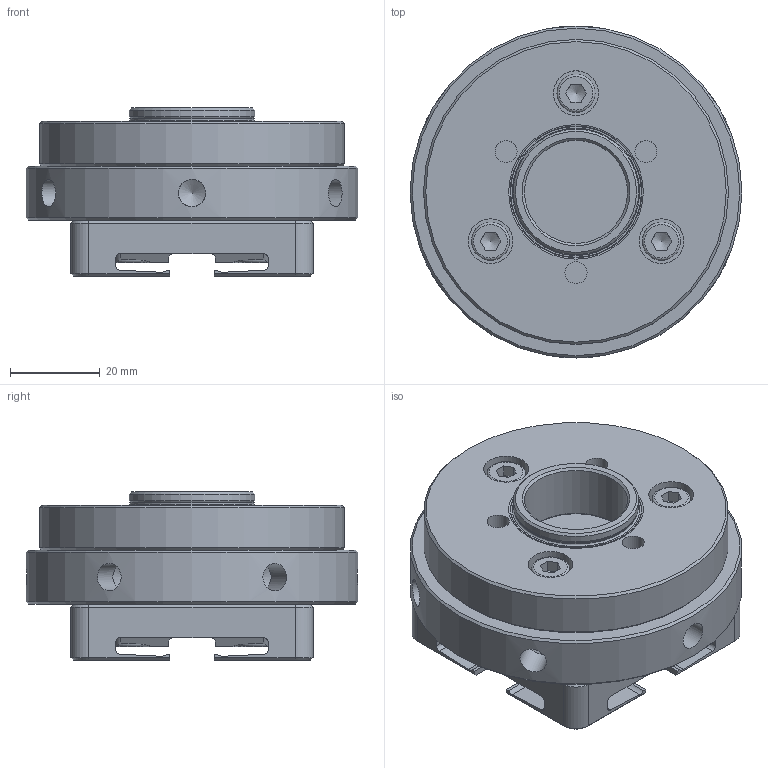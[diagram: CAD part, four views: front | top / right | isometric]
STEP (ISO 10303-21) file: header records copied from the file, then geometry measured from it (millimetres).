
FILE_DESCRIPTION(/* description */ ('Palette 54x54'),/* implementation_level */ '2;1');
FILE_NAME(/* name */ 'D:\03 Projekte\Futtervariationen\(2) Dateien für Webseite\DBFxxx Nullpunktspannsysteme\DBF160_98-01 Aufnahme 3R.iam.stp',/* time_stamp */ '2022-01-27T15:16:31+01:00',/* author */ ('Dirk Pustolla'),/* organization */ (''),/* preprocessor_version */ 'ST-DEVELOPER v15.2',/* originating_system */ 'Autodesk Inventor 2014',/* authorisation */ '');
FILE_SCHEMA (('AUTOMOTIVE_DESIGN { 1 0 10303 214 3 1 1 }'));
Length unit declared in the file: millimetre
Products named in the file (7): 3R-651.7-P Palette 54x54; DBFxx_98-01-10 Adapterplatte; ISO 4762 - M6 x 12DIN EN ISO; DBFxx_98-01-00 Aufnahme 3R; DBF160_98-17 Adapter Nullpunktspannsystem; ISO 4762 - M5 x 16DIN EN ISO; DBF160_98-01 Aufnahme 3R
Bounding box: 74 x 74 x 37.5 mm (x, y, z)
Volume: 102597.9 mm3; surface area: 38385 mm2
Topology: 10 solids, 10 shells, 449 faces, 1172 edges, 765 vertices
Faces by surface type: plane 277, cylinder 104, cone 47, torus 21
Full cylindrical faces by diameter (mm): 4.134 x3, 4.917 x7, 5 x3, 5.5 x3, 6 x8, 6.1 x6, 6.6 x4, 8 x2, 8.5 x3, 9 x4, 10 x7, 11 x4, 23 x1, 26.5 x1, 27.6 x1, 28 x1, 68 x1, 74 x1
Entity records: 11725 total; most frequent: CARTESIAN_POINT 2555, DIRECTION 1829, ORIENTED_EDGE 1798, EDGE_CURVE 899, VERTEX_POINT 632, AXIS2_PLACEMENT_3D 620, LINE 589, VECTOR 589
